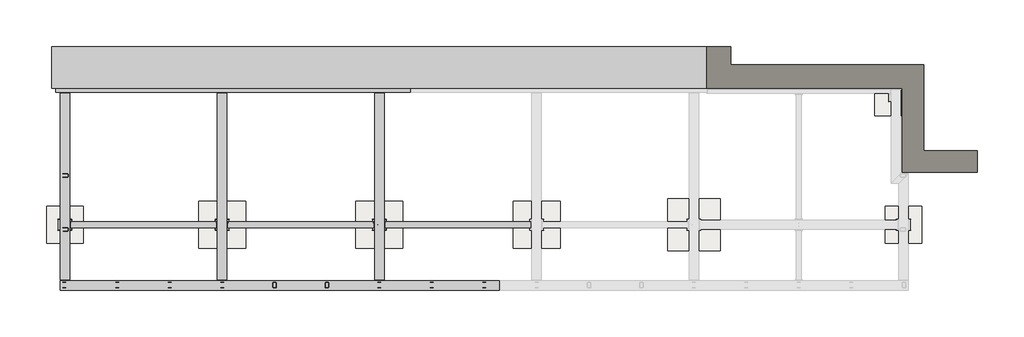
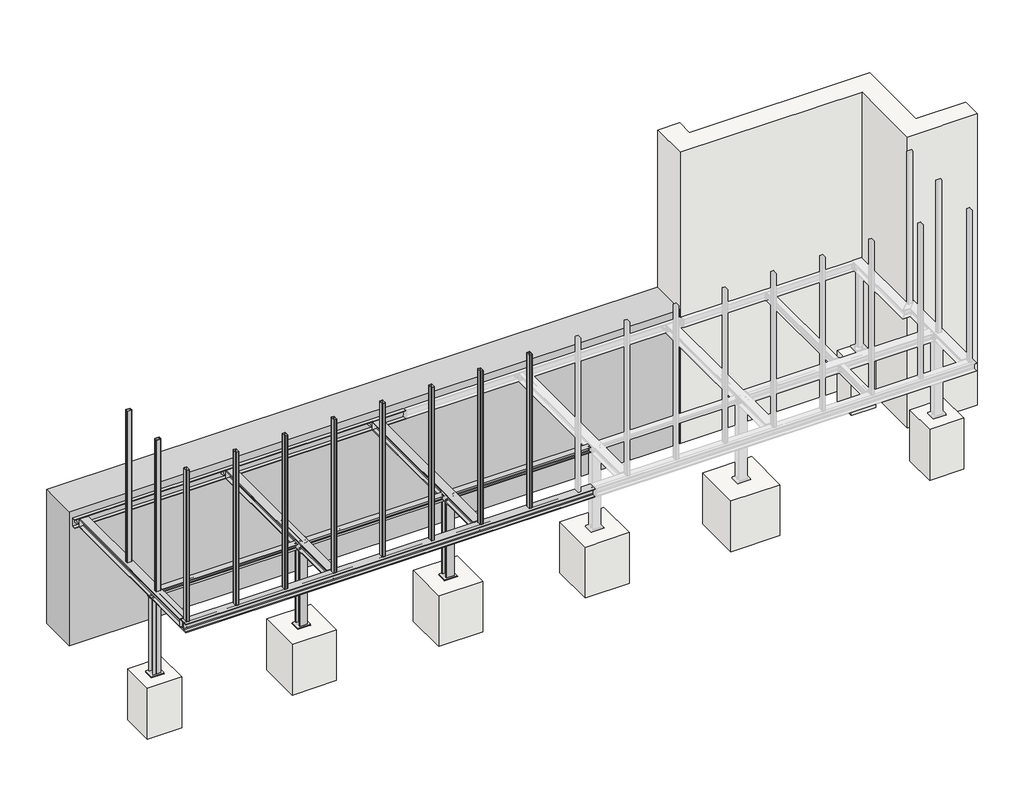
# One storey, part 1 of 31: 13 columns, 9 beams, 8 slabs, 3 plates.
"""IFC4 building model written with IfcOpenShell, lengths in millimetres."""

from ifc_helpers import new_model, si_unit, point, frame, frame_2d, origin, place, context, project, spatial, polyline, circle_curve, trimmed, segment, composite_curve, outline, extrude, faceted_brep, element, save

model = new_model("IFC4")

# Units and contexts
model_context = context("Model", 3, world=origin())
ifc_project = project(units=[si_unit("LENGTHUNIT", "METRE", prefix="MILLI")], contexts=[model_context])

# Site, building, storey
site = spatial("IfcSite", under=ifc_project)
building = spatial("IfcBuilding", under=site)
storey = spatial("IfcBuildingStorey", under=building, Name="Základy", Elevation=-1200.0)

# Beams
placement = place(None, origin())
element("IfcBeam", 1, ObjectType="800*2900", at=placement, inside=storey, context=model_context, shape_type="SweptSolid", body=[
    extrude(outline(polyline([(12300.0, 3860.0), (-200.0, 3860.0), (-200.0, 4660.0), (12300.0, 4660.0), (12300.0, 3860.0)])), frame((0.0, 0.0, -2900.0), z_axis=(0.0, 0.0, 1.0), x_axis=(1.0, 0.0, 0.0)), (0.0, 0.0, 1.0), 2900.0),
])
element("IfcBeam", 2, ObjectType="HEA120", at=placement, inside=storey, context=model_context, shape_type="SweptSolid", body=[
    extrude(outline(composite_curve([segment(polyline([(1200.0, -193.0), (1320.0, -193.0), (1320.0, -201.0), (1274.5, -201.0)]), True, "CONTINUOUS"), segment(trimmed(circle_curve(frame_2d((1274.5, -213.0)), 12.0), [point((1274.5, -201.0))], [point((1262.5, -213.0))], True, "CARTESIAN"), True, "CONTINUOUS"), segment(polyline([(1262.5, -213.0), (1262.5, -287.0)]), True, "CONTINUOUS"), segment(trimmed(circle_curve(frame_2d((1274.5, -287.0)), 12.0), [point((1262.5, -287.0))], [point((1274.5, -299.0))], True, "CARTESIAN"), True, "CONTINUOUS"), segment(polyline([(1274.5, -299.0), (1320.0, -299.0), (1320.0, -307.0), (1200.0, -307.0), (1200.0, -299.0), (1245.5, -299.0)]), True, "CONTINUOUS"), segment(trimmed(circle_curve(frame_2d((1245.5, -287.0)), 12.0), [point((1245.5, -299.0))], [point((1257.5, -287.0))], True, "CARTESIAN"), True, "CONTINUOUS"), segment(polyline([(1257.5, -287.0), (1257.5, -213.0)]), True, "CONTINUOUS"), segment(trimmed(circle_curve(frame_2d((1245.5, -213.0)), 12.0), [point((1257.5, -213.0))], [point((1245.5, -201.0))], True, "CARTESIAN"), True, "CONTINUOUS"), segment(polyline([(1245.5, -201.0), (1200.0, -201.0), (1200.0, -193.0)]), True, "CONTINUOUS")], self_intersect=False)), frame((160.0, 0.0, 0.0), z_axis=(1.0, 0.0, 0.0), x_axis=(0.0, 1.0, 0.0)), (0.0, 0.0, 1.0), 2780.0),
])
element("IfcBeam", 3, ObjectType="HEA120", at=placement, inside=storey, context=model_context, shape_type="SweptSolid", body=[
    extrude(outline(composite_curve([segment(polyline([(1200.0, -193.0), (1320.0, -193.0), (1320.0, -201.0), (1274.5, -201.0)]), True, "CONTINUOUS"), segment(trimmed(circle_curve(frame_2d((1274.5, -213.0)), 12.0), [point((1274.5, -201.0))], [point((1262.5, -213.0))], True, "CARTESIAN"), True, "CONTINUOUS"), segment(polyline([(1262.5, -213.0), (1262.5, -287.0)]), True, "CONTINUOUS"), segment(trimmed(circle_curve(frame_2d((1274.5, -287.0)), 12.0), [point((1262.5, -287.0))], [point((1274.5, -299.0))], True, "CARTESIAN"), True, "CONTINUOUS"), segment(polyline([(1274.5, -299.0), (1320.0, -299.0), (1320.0, -307.0), (1200.0, -307.0), (1200.0, -299.0), (1245.5, -299.0)]), True, "CONTINUOUS"), segment(trimmed(circle_curve(frame_2d((1245.5, -287.0)), 12.0), [point((1245.5, -299.0))], [point((1257.5, -287.0))], True, "CARTESIAN"), True, "CONTINUOUS"), segment(polyline([(1257.5, -287.0), (1257.5, -213.0)]), True, "CONTINUOUS"), segment(trimmed(circle_curve(frame_2d((1245.5, -213.0)), 12.0), [point((1257.5, -213.0))], [point((1245.5, -201.0))], True, "CARTESIAN"), True, "CONTINUOUS"), segment(polyline([(1245.5, -201.0), (1200.0, -201.0), (1200.0, -193.0)]), True, "CONTINUOUS")], self_intersect=False)), frame((3160.0, 0.0, 0.0), z_axis=(1.0, 0.0, 0.0), x_axis=(0.0, 1.0, 0.0)), (0.0, 0.0, 1.0), 2780.0),
])
element("IfcBeam", 4, ObjectType="HEA120", at=placement, inside=storey, context=model_context, shape_type="SweptSolid", body=[
    extrude(outline(composite_curve([segment(polyline([(1200.0, -193.0), (1320.0, -193.0), (1320.0, -201.0), (1274.5, -201.0)]), True, "CONTINUOUS"), segment(trimmed(circle_curve(frame_2d((1274.5, -213.0)), 12.0), [point((1274.5, -201.0))], [point((1262.5, -213.0))], True, "CARTESIAN"), True, "CONTINUOUS"), segment(polyline([(1262.5, -213.0), (1262.5, -287.0)]), True, "CONTINUOUS"), segment(trimmed(circle_curve(frame_2d((1274.5, -287.0)), 12.0), [point((1262.5, -287.0))], [point((1274.5, -299.0))], True, "CARTESIAN"), True, "CONTINUOUS"), segment(polyline([(1274.5, -299.0), (1320.0, -299.0), (1320.0, -307.0), (1200.0, -307.0), (1200.0, -299.0), (1245.5, -299.0)]), True, "CONTINUOUS"), segment(trimmed(circle_curve(frame_2d((1245.5, -287.0)), 12.0), [point((1245.5, -299.0))], [point((1257.5, -287.0))], True, "CARTESIAN"), True, "CONTINUOUS"), segment(polyline([(1257.5, -287.0), (1257.5, -213.0)]), True, "CONTINUOUS"), segment(trimmed(circle_curve(frame_2d((1245.5, -213.0)), 12.0), [point((1257.5, -213.0))], [point((1245.5, -201.0))], True, "CARTESIAN"), True, "CONTINUOUS"), segment(polyline([(1245.5, -201.0), (1200.0, -201.0), (1200.0, -193.0)]), True, "CONTINUOUS")], self_intersect=False)), frame((6160.0, 0.0, 0.0), z_axis=(1.0, 0.0, 0.0), x_axis=(0.0, 1.0, 0.0)), (0.0, 0.0, 1.0), 2780.0),
])
element("IfcBeam", 5, ObjectType="HEB180", at=placement, inside=storey, context=model_context, shape_type="SweptSolid", body=[
    extrude(outline(composite_curve([segment(polyline([(-340.0, 3140.0), (-326.0, 3140.0), (-326.0, 3069.25)]), True, "CONTINUOUS"), segment(trimmed(circle_curve(frame_2d((-311.0, 3069.25)), 15.0), [point((-326.0, 3069.25))], [point((-311.0, 3054.25))], True, "CARTESIAN"), True, "CONTINUOUS"), segment(polyline([(-311.0, 3054.25), (-189.0, 3054.25)]), True, "CONTINUOUS"), segment(trimmed(circle_curve(frame_2d((-189.0, 3069.25)), 15.0), [point((-189.0, 3054.25))], [point((-174.0, 3069.25))], True, "CARTESIAN"), True, "CONTINUOUS"), segment(polyline([(-174.0, 3069.25), (-174.0, 3140.0), (-160.0, 3140.0), (-160.0, 2960.0), (-174.0, 2960.0), (-174.0, 3030.75)]), True, "CONTINUOUS"), segment(trimmed(circle_curve(frame_2d((-189.0, 3030.75)), 15.0), [point((-174.0, 3030.75))], [point((-189.0, 3045.75))], True, "CARTESIAN"), True, "CONTINUOUS"), segment(polyline([(-189.0, 3045.75), (-311.0, 3045.75)]), True, "CONTINUOUS"), segment(trimmed(circle_curve(frame_2d((-311.0, 3030.75)), 15.0), [point((-311.0, 3045.75))], [point((-326.0, 3030.75))], True, "CARTESIAN"), True, "CONTINUOUS"), segment(polyline([(-326.0, 3030.75), (-326.0, 2960.0), (-340.0, 2960.0), (-340.0, 3140.0)]), True, "CONTINUOUS")], self_intersect=False)), frame((0.0, 210.0, 0.0), z_axis=(0.0, 1.0, 0.0), x_axis=(0.0, 0.0, 1.0)), (0.0, 0.0, 1.0), 3557.0),
])
element("IfcBeam", 6, ObjectType="HEB180", at=placement, inside=storey, context=model_context, shape_type="SweptSolid", body=[
    extrude(outline(composite_curve([segment(polyline([(-340.0, -40.0), (-340.0, 140.0), (-326.0, 140.0), (-326.0, 69.25)]), True, "CONTINUOUS"), segment(trimmed(circle_curve(frame_2d((-311.0, 69.25)), 15.0), [point((-326.0, 69.25))], [point((-311.0, 54.25))], True, "CARTESIAN"), True, "CONTINUOUS"), segment(polyline([(-311.0, 54.25), (-189.0, 54.25)]), True, "CONTINUOUS"), segment(trimmed(circle_curve(frame_2d((-189.0, 69.25)), 15.0), [point((-189.0, 54.25))], [point((-174.0, 69.25))], True, "CARTESIAN"), True, "CONTINUOUS"), segment(polyline([(-174.0, 69.25), (-174.0, 140.0), (-160.0, 140.0), (-160.0, -40.0), (-174.0, -40.0), (-174.0, 30.75)]), True, "CONTINUOUS"), segment(trimmed(circle_curve(frame_2d((-189.0, 30.75)), 15.0), [point((-174.0, 30.75))], [point((-189.0, 45.75))], True, "CARTESIAN"), True, "CONTINUOUS"), segment(polyline([(-189.0, 45.75), (-311.0, 45.75)]), True, "CONTINUOUS"), segment(trimmed(circle_curve(frame_2d((-311.0, 30.75)), 15.0), [point((-311.0, 45.75))], [point((-326.0, 30.75))], True, "CARTESIAN"), True, "CONTINUOUS"), segment(polyline([(-326.0, 30.75), (-326.0, -40.0), (-340.0, -40.0)]), True, "CONTINUOUS")], self_intersect=False)), frame((0.0, 210.0, 0.0), z_axis=(0.0, 1.0, 0.0), x_axis=(0.0, 0.0, 1.0)), (0.0, 0.0, 1.0), 3557.0),
])
element("IfcBeam", 7, ObjectType="HEB180", at=placement, inside=storey, context=model_context, shape_type="SweptSolid", body=[
    extrude(outline(composite_curve([segment(polyline([(-340.0, 6140.0), (-326.0, 6140.0), (-326.0, 6069.25)]), True, "CONTINUOUS"), segment(trimmed(circle_curve(frame_2d((-311.0, 6069.25)), 15.0), [point((-326.0, 6069.25))], [point((-311.0, 6054.25))], True, "CARTESIAN"), True, "CONTINUOUS"), segment(polyline([(-311.0, 6054.25), (-189.0, 6054.25)]), True, "CONTINUOUS"), segment(trimmed(circle_curve(frame_2d((-189.0, 6069.25)), 15.0), [point((-189.0, 6054.25))], [point((-174.0, 6069.25))], True, "CARTESIAN"), True, "CONTINUOUS"), segment(polyline([(-174.0, 6069.25), (-174.0, 6140.0), (-160.0, 6140.0), (-160.0, 5960.0), (-174.0, 5960.0), (-174.0, 6030.75)]), True, "CONTINUOUS"), segment(trimmed(circle_curve(frame_2d((-189.0, 6030.75)), 15.0), [point((-174.0, 6030.75))], [point((-189.0, 6045.75))], True, "CARTESIAN"), True, "CONTINUOUS"), segment(polyline([(-189.0, 6045.75), (-311.0, 6045.75)]), True, "CONTINUOUS"), segment(trimmed(circle_curve(frame_2d((-311.0, 6030.75)), 15.0), [point((-311.0, 6045.75))], [point((-326.0, 6030.75))], True, "CARTESIAN"), True, "CONTINUOUS"), segment(polyline([(-326.0, 6030.75), (-326.0, 5960.0), (-340.0, 5960.0), (-340.0, 6140.0)]), True, "CONTINUOUS")], self_intersect=False)), frame((0.0, 210.0, 0.0), z_axis=(0.0, 1.0, 0.0), x_axis=(0.0, 0.0, 1.0)), (0.0, 0.0, 1.0), 3557.0),
])
element("IfcBeam", 8, ObjectType="HEB180", at=placement, inside=storey, context=model_context, shape_type="SweptSolid", body=[
    extrude(outline(composite_curve([segment(polyline([(10.0, -160.0), (190.0, -160.0), (190.0, -174.0), (119.25, -174.0)]), True, "CONTINUOUS"), segment(trimmed(circle_curve(frame_2d((119.25, -189.0)), 15.0), [point((119.25, -174.0))], [point((104.25, -189.0))], True, "CARTESIAN"), True, "CONTINUOUS"), segment(polyline([(104.25, -189.0), (104.25, -311.0)]), True, "CONTINUOUS"), segment(trimmed(circle_curve(frame_2d((119.25, -311.0)), 15.0), [point((104.25, -311.0))], [point((119.25, -326.0))], True, "CARTESIAN"), True, "CONTINUOUS"), segment(polyline([(119.25, -326.0), (190.0, -326.0), (190.0, -340.0), (10.0, -340.0), (10.0, -326.0), (80.75, -326.0)]), True, "CONTINUOUS"), segment(trimmed(circle_curve(frame_2d((80.75, -311.0)), 15.0), [point((80.75, -326.0))], [point((95.75, -311.0))], True, "CARTESIAN"), True, "CONTINUOUS"), segment(polyline([(95.75, -311.0), (95.75, -189.0)]), True, "CONTINUOUS"), segment(trimmed(circle_curve(frame_2d((80.75, -189.0)), 15.0), [point((95.75, -189.0))], [point((80.75, -174.0))], True, "CARTESIAN"), True, "CONTINUOUS"), segment(polyline([(80.75, -174.0), (10.0, -174.0), (10.0, -160.0)]), True, "CONTINUOUS")], self_intersect=False)), frame((-40.0, 0.0, 0.0), z_axis=(1.0, 0.0, 0.0), x_axis=(0.0, 1.0, 0.0)), (0.0, 0.0, 1.0), 8380.0),
])
element("IfcBeam", 9, ObjectType="UPE180", at=placement, inside=storey, context=model_context, shape_type="SweptSolid", body=[
    extrude(outline(polyline([(3860.0, -160.0), (3860.0, -340.0), (3785.0, -340.0), (3785.0, -329.5), (3854.5, -329.5), (3854.5, -170.5), (3785.0, -170.5), (3785.0, -160.0), (3860.0, -160.0)])), frame((-125.0, 0.0, 0.0), z_axis=(1.0, 0.0, 0.0), x_axis=(0.0, 1.0, 0.0)), (0.0, 0.0, 1.0), 6765.0),
])

# Columns
element("IfcColumn", 10, ObjectType="RHS100*60*3.2", at=placement, inside=storey, context=model_context, shape_type="SweptSolid", body=[
    extrude(outline(composite_curve([segment(polyline([(3073.6, 60.0), (3026.4, 60.0)]), True, "CONTINUOUS"), segment(trimmed(circle_curve(frame_2d((3026.4, 66.4)), 6.4), [point((3026.4, 60.0))], [point((3020.0, 66.4))], False, "CARTESIAN"), True, "CONTINUOUS"), segment(polyline([(3020.0, 66.4), (3020.0, 153.6)]), True, "CONTINUOUS"), segment(trimmed(circle_curve(frame_2d((3026.4, 153.6)), 6.4), [point((3020.0, 153.6))], [point((3026.4, 160.0))], False, "CARTESIAN"), True, "CONTINUOUS"), segment(polyline([(3026.4, 160.0), (3073.6, 160.0)]), True, "CONTINUOUS"), segment(trimmed(circle_curve(frame_2d((3073.6, 153.6)), 6.4), [point((3073.6, 160.0))], [point((3080.0, 153.6))], False, "CARTESIAN"), True, "CONTINUOUS"), segment(polyline([(3080.0, 153.6), (3080.0, 66.4)]), True, "CONTINUOUS"), segment(trimmed(circle_curve(frame_2d((3073.6, 66.4)), 6.4), [point((3080.0, 66.4))], [point((3073.6, 60.0))], False, "CARTESIAN"), True, "CONTINUOUS")], self_intersect=False), holes=[composite_curve([segment(trimmed(circle_curve(frame_2d((3073.6, 66.4)), 3.2), [point((3073.6, 63.2))], [point((3076.8, 66.4))], True, "CARTESIAN"), True, "CONTINUOUS"), segment(polyline([(3076.8, 66.4), (3076.8, 153.6)]), True, "CONTINUOUS"), segment(trimmed(circle_curve(frame_2d((3073.6, 153.6)), 3.2), [point((3076.8, 153.6))], [point((3073.6, 156.8))], True, "CARTESIAN"), True, "CONTINUOUS"), segment(polyline([(3073.6, 156.8), (3026.4, 156.8)]), True, "CONTINUOUS"), segment(trimmed(circle_curve(frame_2d((3026.4, 153.6)), 3.2), [point((3026.4, 156.8))], [point((3023.2, 153.6))], True, "CARTESIAN"), True, "CONTINUOUS"), segment(polyline([(3023.2, 153.6), (3023.2, 66.4)]), True, "CONTINUOUS"), segment(trimmed(circle_curve(frame_2d((3026.4, 66.4)), 3.2), [point((3023.2, 66.4))], [point((3026.4, 63.2))], True, "CARTESIAN"), True, "CONTINUOUS"), segment(polyline([(3026.4, 63.2), (3073.6, 63.2)]), True, "CONTINUOUS")], self_intersect=False)]), frame((0.0, 0.0, -160.0), z_axis=(0.0, 0.0, 1.0), x_axis=(1.0, 0.0, 0.0)), (0.0, 0.0, 1.0), 3320.0),
])
element("IfcColumn", 11, ObjectType="RHS100*60*3.2", at=placement, inside=storey, context=model_context, shape_type="SweptSolid", body=[
    extrude(outline(composite_curve([segment(polyline([(6073.6, 60.0), (6026.4, 60.0)]), True, "CONTINUOUS"), segment(trimmed(circle_curve(frame_2d((6026.4, 66.4)), 6.4), [point((6026.4, 60.0))], [point((6020.0, 66.4))], False, "CARTESIAN"), True, "CONTINUOUS"), segment(polyline([(6020.0, 66.4), (6020.0, 153.6)]), True, "CONTINUOUS"), segment(trimmed(circle_curve(frame_2d((6026.4, 153.6)), 6.4), [point((6020.0, 153.6))], [point((6026.4, 160.0))], False, "CARTESIAN"), True, "CONTINUOUS"), segment(polyline([(6026.4, 160.0), (6073.6, 160.0)]), True, "CONTINUOUS"), segment(trimmed(circle_curve(frame_2d((6073.6, 153.6)), 6.4), [point((6073.6, 160.0))], [point((6080.0, 153.6))], False, "CARTESIAN"), True, "CONTINUOUS"), segment(polyline([(6080.0, 153.6), (6080.0, 66.4)]), True, "CONTINUOUS"), segment(trimmed(circle_curve(frame_2d((6073.6, 66.4)), 6.4), [point((6080.0, 66.4))], [point((6073.6, 60.0))], False, "CARTESIAN"), True, "CONTINUOUS")], self_intersect=False), holes=[composite_curve([segment(trimmed(circle_curve(frame_2d((6073.6, 66.4)), 3.2), [point((6073.6, 63.2))], [point((6076.8, 66.4))], True, "CARTESIAN"), True, "CONTINUOUS"), segment(polyline([(6076.8, 66.4), (6076.8, 153.6)]), True, "CONTINUOUS"), segment(trimmed(circle_curve(frame_2d((6073.6, 153.6)), 3.2), [point((6076.8, 153.6))], [point((6073.6, 156.8))], True, "CARTESIAN"), True, "CONTINUOUS"), segment(polyline([(6073.6, 156.8), (6026.4, 156.8)]), True, "CONTINUOUS"), segment(trimmed(circle_curve(frame_2d((6026.4, 153.6)), 3.2), [point((6026.4, 156.8))], [point((6023.2, 153.6))], True, "CARTESIAN"), True, "CONTINUOUS"), segment(polyline([(6023.2, 153.6), (6023.2, 66.4)]), True, "CONTINUOUS"), segment(trimmed(circle_curve(frame_2d((6026.4, 66.4)), 3.2), [point((6023.2, 66.4))], [point((6026.4, 63.2))], True, "CARTESIAN"), True, "CONTINUOUS"), segment(polyline([(6026.4, 63.2), (6073.6, 63.2)]), True, "CONTINUOUS")], self_intersect=False)]), frame((0.0, 0.0, -160.0), z_axis=(0.0, 0.0, 1.0), x_axis=(1.0, 0.0, 0.0)), (0.0, 0.0, 1.0), 3320.0),
])
element("IfcColumn", 12, ObjectType="RHS100*60*3.2", at=placement, inside=storey, context=model_context, shape_type="SweptSolid", body=[
    extrude(outline(composite_curve([segment(polyline([(10.0, 1146.4), (10.0, 1193.6)]), True, "CONTINUOUS"), segment(trimmed(circle_curve(frame_2d((16.4, 1193.6)), 6.4), [point((10.0, 1193.6))], [point((16.4, 1200.0))], False, "CARTESIAN"), True, "CONTINUOUS"), segment(polyline([(16.4, 1200.0), (103.6, 1200.0)]), True, "CONTINUOUS"), segment(trimmed(circle_curve(frame_2d((103.6, 1193.6)), 6.4), [point((103.6, 1200.0))], [point((110.0, 1193.6))], False, "CARTESIAN"), True, "CONTINUOUS"), segment(polyline([(110.0, 1193.6), (110.0, 1146.4)]), True, "CONTINUOUS"), segment(trimmed(circle_curve(frame_2d((103.6, 1146.4)), 6.4), [point((110.0, 1146.4))], [point((103.6, 1140.0))], False, "CARTESIAN"), True, "CONTINUOUS"), segment(polyline([(103.6, 1140.0), (16.4, 1140.0)]), True, "CONTINUOUS"), segment(trimmed(circle_curve(frame_2d((16.4, 1146.4)), 6.4), [point((16.4, 1140.0))], [point((10.0, 1146.4))], False, "CARTESIAN"), True, "CONTINUOUS")], self_intersect=False), holes=[composite_curve([segment(trimmed(circle_curve(frame_2d((16.4, 1146.4)), 3.2), [point((13.2, 1146.4))], [point((16.4, 1143.2))], True, "CARTESIAN"), True, "CONTINUOUS"), segment(polyline([(16.4, 1143.2), (103.6, 1143.2)]), True, "CONTINUOUS"), segment(trimmed(circle_curve(frame_2d((103.6, 1146.4)), 3.2), [point((103.6, 1143.2))], [point((106.8, 1146.4))], True, "CARTESIAN"), True, "CONTINUOUS"), segment(polyline([(106.8, 1146.4), (106.8, 1193.6)]), True, "CONTINUOUS"), segment(trimmed(circle_curve(frame_2d((103.6, 1193.6)), 3.2), [point((106.8, 1193.6))], [point((103.6, 1196.8))], True, "CARTESIAN"), True, "CONTINUOUS"), segment(polyline([(103.6, 1196.8), (16.4, 1196.8)]), True, "CONTINUOUS"), segment(trimmed(circle_curve(frame_2d((16.4, 1193.6)), 3.2), [point((16.4, 1196.8))], [point((13.2, 1193.6))], True, "CARTESIAN"), True, "CONTINUOUS"), segment(polyline([(13.2, 1193.6), (13.2, 1146.4)]), True, "CONTINUOUS")], self_intersect=False)]), frame((0.0, 0.0, -160.0), z_axis=(0.0, 0.0, 1.0), x_axis=(1.0, 0.0, 0.0)), (0.0, 0.0, 1.0), 3280.0),
])
element("IfcColumn", 13, ObjectType="RHS100*60*3.2", at=placement, inside=storey, context=model_context, shape_type="SweptSolid", body=[
    extrude(outline(composite_curve([segment(polyline([(2073.6, 60.0), (2026.4, 60.0)]), True, "CONTINUOUS"), segment(trimmed(circle_curve(frame_2d((2026.4, 66.4)), 6.4), [point((2026.4, 60.0))], [point((2020.0, 66.4))], False, "CARTESIAN"), True, "CONTINUOUS"), segment(polyline([(2020.0, 66.4), (2020.0, 153.6)]), True, "CONTINUOUS"), segment(trimmed(circle_curve(frame_2d((2026.4, 153.6)), 6.4), [point((2020.0, 153.6))], [point((2026.4, 160.0))], False, "CARTESIAN"), True, "CONTINUOUS"), segment(polyline([(2026.4, 160.0), (2073.6, 160.0)]), True, "CONTINUOUS"), segment(trimmed(circle_curve(frame_2d((2073.6, 153.6)), 6.4), [point((2073.6, 160.0))], [point((2080.0, 153.6))], False, "CARTESIAN"), True, "CONTINUOUS"), segment(polyline([(2080.0, 153.6), (2080.0, 66.4)]), True, "CONTINUOUS"), segment(trimmed(circle_curve(frame_2d((2073.6, 66.4)), 6.4), [point((2080.0, 66.4))], [point((2073.6, 60.0))], False, "CARTESIAN"), True, "CONTINUOUS")], self_intersect=False), holes=[composite_curve([segment(trimmed(circle_curve(frame_2d((2073.6, 66.4)), 3.2), [point((2073.6, 63.2))], [point((2076.8, 66.4))], True, "CARTESIAN"), True, "CONTINUOUS"), segment(polyline([(2076.8, 66.4), (2076.8, 153.6)]), True, "CONTINUOUS"), segment(trimmed(circle_curve(frame_2d((2073.6, 153.6)), 3.2), [point((2076.8, 153.6))], [point((2073.6, 156.8))], True, "CARTESIAN"), True, "CONTINUOUS"), segment(polyline([(2073.6, 156.8), (2026.4, 156.8)]), True, "CONTINUOUS"), segment(trimmed(circle_curve(frame_2d((2026.4, 153.6)), 3.2), [point((2026.4, 156.8))], [point((2023.2, 153.6))], True, "CARTESIAN"), True, "CONTINUOUS"), segment(polyline([(2023.2, 153.6), (2023.2, 66.4)]), True, "CONTINUOUS"), segment(trimmed(circle_curve(frame_2d((2026.4, 66.4)), 3.2), [point((2023.2, 66.4))], [point((2026.4, 63.2))], True, "CARTESIAN"), True, "CONTINUOUS"), segment(polyline([(2026.4, 63.2), (2073.6, 63.2)]), True, "CONTINUOUS")], self_intersect=False)]), frame((0.0, 0.0, -160.0), z_axis=(0.0, 0.0, 1.0), x_axis=(1.0, 0.0, 0.0)), (0.0, 0.0, 1.0), 3320.0),
])
element("IfcColumn", 14, ObjectType="RHS100*60*3.2", at=placement, inside=storey, context=model_context, shape_type="SweptSolid", body=[
    extrude(outline(composite_curve([segment(polyline([(1073.6, 60.0), (1026.4, 60.0)]), True, "CONTINUOUS"), segment(trimmed(circle_curve(frame_2d((1026.4, 66.4)), 6.4), [point((1026.4, 60.0))], [point((1020.0, 66.4))], False, "CARTESIAN"), True, "CONTINUOUS"), segment(polyline([(1020.0, 66.4), (1020.0, 153.6)]), True, "CONTINUOUS"), segment(trimmed(circle_curve(frame_2d((1026.4, 153.6)), 6.4), [point((1020.0, 153.6))], [point((1026.4, 160.0))], False, "CARTESIAN"), True, "CONTINUOUS"), segment(polyline([(1026.4, 160.0), (1073.6, 160.0)]), True, "CONTINUOUS"), segment(trimmed(circle_curve(frame_2d((1073.6, 153.6)), 6.4), [point((1073.6, 160.0))], [point((1080.0, 153.6))], False, "CARTESIAN"), True, "CONTINUOUS"), segment(polyline([(1080.0, 153.6), (1080.0, 66.4)]), True, "CONTINUOUS"), segment(trimmed(circle_curve(frame_2d((1073.6, 66.4)), 6.4), [point((1080.0, 66.4))], [point((1073.6, 60.0))], False, "CARTESIAN"), True, "CONTINUOUS")], self_intersect=False), holes=[composite_curve([segment(trimmed(circle_curve(frame_2d((1073.6, 66.4)), 3.2), [point((1073.6, 63.2))], [point((1076.8, 66.4))], True, "CARTESIAN"), True, "CONTINUOUS"), segment(polyline([(1076.8, 66.4), (1076.8, 153.6)]), True, "CONTINUOUS"), segment(trimmed(circle_curve(frame_2d((1073.6, 153.6)), 3.2), [point((1076.8, 153.6))], [point((1073.6, 156.8))], True, "CARTESIAN"), True, "CONTINUOUS"), segment(polyline([(1073.6, 156.8), (1026.4, 156.8)]), True, "CONTINUOUS"), segment(trimmed(circle_curve(frame_2d((1026.4, 153.6)), 3.2), [point((1026.4, 156.8))], [point((1023.2, 153.6))], True, "CARTESIAN"), True, "CONTINUOUS"), segment(polyline([(1023.2, 153.6), (1023.2, 66.4)]), True, "CONTINUOUS"), segment(trimmed(circle_curve(frame_2d((1026.4, 66.4)), 3.2), [point((1023.2, 66.4))], [point((1026.4, 63.2))], True, "CARTESIAN"), True, "CONTINUOUS"), segment(polyline([(1026.4, 63.2), (1073.6, 63.2)]), True, "CONTINUOUS")], self_intersect=False)]), frame((0.0, 0.0, -160.0), z_axis=(0.0, 0.0, 1.0), x_axis=(1.0, 0.0, 0.0)), (0.0, 0.0, 1.0), 3320.0),
])
element("IfcColumn", 15, ObjectType="RHS100*60*3.2", at=placement, inside=storey, context=model_context, shape_type="SweptSolid", body=[
    extrude(outline(composite_curve([segment(polyline([(5073.6, 60.0), (5026.4, 60.0)]), True, "CONTINUOUS"), segment(trimmed(circle_curve(frame_2d((5026.4, 66.4)), 6.4), [point((5026.4, 60.0))], [point((5020.0, 66.4))], False, "CARTESIAN"), True, "CONTINUOUS"), segment(polyline([(5020.0, 66.4), (5020.0, 153.6)]), True, "CONTINUOUS"), segment(trimmed(circle_curve(frame_2d((5026.4, 153.6)), 6.4), [point((5020.0, 153.6))], [point((5026.4, 160.0))], False, "CARTESIAN"), True, "CONTINUOUS"), segment(polyline([(5026.4, 160.0), (5073.6, 160.0)]), True, "CONTINUOUS"), segment(trimmed(circle_curve(frame_2d((5073.6, 153.6)), 6.4), [point((5073.6, 160.0))], [point((5080.0, 153.6))], False, "CARTESIAN"), True, "CONTINUOUS"), segment(polyline([(5080.0, 153.6), (5080.0, 66.4)]), True, "CONTINUOUS"), segment(trimmed(circle_curve(frame_2d((5073.6, 66.4)), 6.4), [point((5080.0, 66.4))], [point((5073.6, 60.0))], False, "CARTESIAN"), True, "CONTINUOUS")], self_intersect=False), holes=[composite_curve([segment(trimmed(circle_curve(frame_2d((5073.6, 66.4)), 3.2), [point((5073.6, 63.2))], [point((5076.8, 66.4))], True, "CARTESIAN"), True, "CONTINUOUS"), segment(polyline([(5076.8, 66.4), (5076.8, 153.6)]), True, "CONTINUOUS"), segment(trimmed(circle_curve(frame_2d((5073.6, 153.6)), 3.2), [point((5076.8, 153.6))], [point((5073.6, 156.8))], True, "CARTESIAN"), True, "CONTINUOUS"), segment(polyline([(5073.6, 156.8), (5026.4, 156.8)]), True, "CONTINUOUS"), segment(trimmed(circle_curve(frame_2d((5026.4, 153.6)), 3.2), [point((5026.4, 156.8))], [point((5023.2, 153.6))], True, "CARTESIAN"), True, "CONTINUOUS"), segment(polyline([(5023.2, 153.6), (5023.2, 66.4)]), True, "CONTINUOUS"), segment(trimmed(circle_curve(frame_2d((5026.4, 66.4)), 3.2), [point((5023.2, 66.4))], [point((5026.4, 63.2))], True, "CARTESIAN"), True, "CONTINUOUS"), segment(polyline([(5026.4, 63.2), (5073.6, 63.2)]), True, "CONTINUOUS")], self_intersect=False)]), frame((0.0, 0.0, -160.0), z_axis=(0.0, 0.0, 1.0), x_axis=(1.0, 0.0, 0.0)), (0.0, 0.0, 1.0), 3320.0),
])
element("IfcColumn", 16, ObjectType="RHS100*60*3.2", at=placement, inside=storey, context=model_context, shape_type="SweptSolid", body=[
    extrude(outline(composite_curve([segment(polyline([(4073.6, 60.0), (4026.4, 60.0)]), True, "CONTINUOUS"), segment(trimmed(circle_curve(frame_2d((4026.4, 66.4)), 6.4), [point((4026.4, 60.0))], [point((4020.0, 66.4))], False, "CARTESIAN"), True, "CONTINUOUS"), segment(polyline([(4020.0, 66.4), (4020.0, 153.6)]), True, "CONTINUOUS"), segment(trimmed(circle_curve(frame_2d((4026.4, 153.6)), 6.4), [point((4020.0, 153.6))], [point((4026.4, 160.0))], False, "CARTESIAN"), True, "CONTINUOUS"), segment(polyline([(4026.4, 160.0), (4073.6, 160.0)]), True, "CONTINUOUS"), segment(trimmed(circle_curve(frame_2d((4073.6, 153.6)), 6.4), [point((4073.6, 160.0))], [point((4080.0, 153.6))], False, "CARTESIAN"), True, "CONTINUOUS"), segment(polyline([(4080.0, 153.6), (4080.0, 66.4)]), True, "CONTINUOUS"), segment(trimmed(circle_curve(frame_2d((4073.6, 66.4)), 6.4), [point((4080.0, 66.4))], [point((4073.6, 60.0))], False, "CARTESIAN"), True, "CONTINUOUS")], self_intersect=False), holes=[composite_curve([segment(trimmed(circle_curve(frame_2d((4073.6, 66.4)), 3.2), [point((4073.6, 63.2))], [point((4076.8, 66.4))], True, "CARTESIAN"), True, "CONTINUOUS"), segment(polyline([(4076.8, 66.4), (4076.8, 153.6)]), True, "CONTINUOUS"), segment(trimmed(circle_curve(frame_2d((4073.6, 153.6)), 3.2), [point((4076.8, 153.6))], [point((4073.6, 156.8))], True, "CARTESIAN"), True, "CONTINUOUS"), segment(polyline([(4073.6, 156.8), (4026.4, 156.8)]), True, "CONTINUOUS"), segment(trimmed(circle_curve(frame_2d((4026.4, 153.6)), 3.2), [point((4026.4, 156.8))], [point((4023.2, 153.6))], True, "CARTESIAN"), True, "CONTINUOUS"), segment(polyline([(4023.2, 153.6), (4023.2, 66.4)]), True, "CONTINUOUS"), segment(trimmed(circle_curve(frame_2d((4026.4, 66.4)), 3.2), [point((4023.2, 66.4))], [point((4026.4, 63.2))], True, "CARTESIAN"), True, "CONTINUOUS"), segment(polyline([(4026.4, 63.2), (4073.6, 63.2)]), True, "CONTINUOUS")], self_intersect=False)]), frame((0.0, 0.0, -160.0), z_axis=(0.0, 0.0, 1.0), x_axis=(1.0, 0.0, 0.0)), (0.0, 0.0, 1.0), 3320.0),
])
element("IfcColumn", 17, ObjectType="RHS100*60*3.2", at=placement, inside=storey, context=model_context, shape_type="SweptSolid", body=[
    extrude(outline(composite_curve([segment(polyline([(7073.6, 60.0), (7026.4, 60.0)]), True, "CONTINUOUS"), segment(trimmed(circle_curve(frame_2d((7026.4, 66.4)), 6.4), [point((7026.4, 60.0))], [point((7020.0, 66.4))], False, "CARTESIAN"), True, "CONTINUOUS"), segment(polyline([(7020.0, 66.4), (7020.0, 153.6)]), True, "CONTINUOUS"), segment(trimmed(circle_curve(frame_2d((7026.4, 153.6)), 6.4), [point((7020.0, 153.6))], [point((7026.4, 160.0))], False, "CARTESIAN"), True, "CONTINUOUS"), segment(polyline([(7026.4, 160.0), (7073.6, 160.0)]), True, "CONTINUOUS"), segment(trimmed(circle_curve(frame_2d((7073.6, 153.6)), 6.4), [point((7073.6, 160.0))], [point((7080.0, 153.6))], False, "CARTESIAN"), True, "CONTINUOUS"), segment(polyline([(7080.0, 153.6), (7080.0, 66.4)]), True, "CONTINUOUS"), segment(trimmed(circle_curve(frame_2d((7073.6, 66.4)), 6.4), [point((7080.0, 66.4))], [point((7073.6, 60.0))], False, "CARTESIAN"), True, "CONTINUOUS")], self_intersect=False), holes=[composite_curve([segment(trimmed(circle_curve(frame_2d((7073.6, 66.4)), 3.2), [point((7073.6, 63.2))], [point((7076.8, 66.4))], True, "CARTESIAN"), True, "CONTINUOUS"), segment(polyline([(7076.8, 66.4), (7076.8, 153.6)]), True, "CONTINUOUS"), segment(trimmed(circle_curve(frame_2d((7073.6, 153.6)), 3.2), [point((7076.8, 153.6))], [point((7073.6, 156.8))], True, "CARTESIAN"), True, "CONTINUOUS"), segment(polyline([(7073.6, 156.8), (7026.4, 156.8)]), True, "CONTINUOUS"), segment(trimmed(circle_curve(frame_2d((7026.4, 153.6)), 3.2), [point((7026.4, 156.8))], [point((7023.2, 153.6))], True, "CARTESIAN"), True, "CONTINUOUS"), segment(polyline([(7023.2, 153.6), (7023.2, 66.4)]), True, "CONTINUOUS"), segment(trimmed(circle_curve(frame_2d((7026.4, 66.4)), 3.2), [point((7023.2, 66.4))], [point((7026.4, 63.2))], True, "CARTESIAN"), True, "CONTINUOUS"), segment(polyline([(7026.4, 63.2), (7073.6, 63.2)]), True, "CONTINUOUS")], self_intersect=False)]), frame((0.0, 0.0, -160.0), z_axis=(0.0, 0.0, 1.0), x_axis=(1.0, 0.0, 0.0)), (0.0, 0.0, 1.0), 3320.0),
])
element("IfcColumn", 18, ObjectType="RHS100*60*3.2", at=placement, inside=storey, context=model_context, shape_type="SweptSolid", body=[
    extrude(outline(composite_curve([segment(polyline([(63.6, 60.0), (16.4, 60.0)]), True, "CONTINUOUS"), segment(trimmed(circle_curve(frame_2d((16.4, 66.4)), 6.4), [point((16.4, 60.0))], [point((10.0, 66.4))], False, "CARTESIAN"), True, "CONTINUOUS"), segment(polyline([(10.0, 66.4), (10.0, 153.6)]), True, "CONTINUOUS"), segment(trimmed(circle_curve(frame_2d((16.4, 153.6)), 6.4), [point((10.0, 153.6))], [point((16.4, 160.0))], False, "CARTESIAN"), True, "CONTINUOUS"), segment(polyline([(16.4, 160.0), (63.6, 160.0)]), True, "CONTINUOUS"), segment(trimmed(circle_curve(frame_2d((63.6, 153.6)), 6.4), [point((63.6, 160.0))], [point((70.0, 153.6))], False, "CARTESIAN"), True, "CONTINUOUS"), segment(polyline([(70.0, 153.6), (70.0, 66.4)]), True, "CONTINUOUS"), segment(trimmed(circle_curve(frame_2d((63.6, 66.4)), 6.4), [point((70.0, 66.4))], [point((63.6, 60.0))], False, "CARTESIAN"), True, "CONTINUOUS")], self_intersect=False), holes=[composite_curve([segment(trimmed(circle_curve(frame_2d((63.6, 66.4)), 3.2), [point((63.6, 63.2))], [point((66.8, 66.4))], True, "CARTESIAN"), True, "CONTINUOUS"), segment(polyline([(66.8, 66.4), (66.8, 153.6)]), True, "CONTINUOUS"), segment(trimmed(circle_curve(frame_2d((63.6, 153.6)), 3.2), [point((66.8, 153.6))], [point((63.6, 156.8))], True, "CARTESIAN"), True, "CONTINUOUS"), segment(polyline([(63.6, 156.8), (16.4, 156.8)]), True, "CONTINUOUS"), segment(trimmed(circle_curve(frame_2d((16.4, 153.6)), 3.2), [point((16.4, 156.8))], [point((13.2, 153.6))], True, "CARTESIAN"), True, "CONTINUOUS"), segment(polyline([(13.2, 153.6), (13.2, 66.4)]), True, "CONTINUOUS"), segment(trimmed(circle_curve(frame_2d((16.4, 66.4)), 3.2), [point((13.2, 66.4))], [point((16.4, 63.2))], True, "CARTESIAN"), True, "CONTINUOUS"), segment(polyline([(16.4, 63.2), (63.6, 63.2)]), True, "CONTINUOUS")], self_intersect=False)]), frame((0.0, 0.0, -160.0), z_axis=(0.0, 0.0, 1.0), x_axis=(1.0, 0.0, 0.0)), (0.0, 0.0, 1.0), 3280.0),
])
element("IfcColumn", 19, ObjectType="RHS100*60*3.2", at=placement, inside=storey, context=model_context, shape_type="SweptSolid", body=[
    extrude(outline(composite_curve([segment(polyline([(110.0, 2223.6), (110.0, 2176.4)]), True, "CONTINUOUS"), segment(trimmed(circle_curve(frame_2d((103.6, 2176.4)), 6.4), [point((110.0, 2176.4))], [point((103.6, 2170.0))], False, "CARTESIAN"), True, "CONTINUOUS"), segment(polyline([(103.6, 2170.0), (16.4, 2170.0)]), True, "CONTINUOUS"), segment(trimmed(circle_curve(frame_2d((16.4, 2176.4)), 6.4), [point((16.4, 2170.0))], [point((10.0, 2176.4))], False, "CARTESIAN"), True, "CONTINUOUS"), segment(polyline([(10.0, 2176.4), (10.0, 2223.6)]), True, "CONTINUOUS"), segment(trimmed(circle_curve(frame_2d((16.4, 2223.6)), 6.4), [point((10.0, 2223.6))], [point((16.4, 2230.0))], False, "CARTESIAN"), True, "CONTINUOUS"), segment(polyline([(16.4, 2230.0), (103.6, 2230.0)]), True, "CONTINUOUS"), segment(trimmed(circle_curve(frame_2d((103.6, 2223.6)), 6.4), [point((103.6, 2230.0))], [point((110.0, 2223.6))], False, "CARTESIAN"), True, "CONTINUOUS")], self_intersect=False), holes=[composite_curve([segment(trimmed(circle_curve(frame_2d((103.6, 2223.6)), 3.2), [point((106.8, 2223.6))], [point((103.6, 2226.8))], True, "CARTESIAN"), True, "CONTINUOUS"), segment(polyline([(103.6, 2226.8), (16.4, 2226.8)]), True, "CONTINUOUS"), segment(trimmed(circle_curve(frame_2d((16.4, 2223.6)), 3.2), [point((16.4, 2226.8))], [point((13.2, 2223.6))], True, "CARTESIAN"), True, "CONTINUOUS"), segment(polyline([(13.2, 2223.6), (13.2, 2176.4)]), True, "CONTINUOUS"), segment(trimmed(circle_curve(frame_2d((16.4, 2176.4)), 3.2), [point((13.2, 2176.4))], [point((16.4, 2173.2))], True, "CARTESIAN"), True, "CONTINUOUS"), segment(polyline([(16.4, 2173.2), (103.6, 2173.2)]), True, "CONTINUOUS"), segment(trimmed(circle_curve(frame_2d((103.6, 2176.4)), 3.2), [point((103.6, 2173.2))], [point((106.8, 2176.4))], True, "CARTESIAN"), True, "CONTINUOUS"), segment(polyline([(106.8, 2176.4), (106.8, 2223.6)]), True, "CONTINUOUS")], self_intersect=False)]), frame((0.0, 0.0, -160.0), z_axis=(0.0, 0.0, 1.0), x_axis=(1.0, 0.0, 0.0)), (0.0, 0.0, 1.0), 3280.0),
])
element("IfcColumn", 20, ObjectType="HEA160", at=placement, inside=storey, context=model_context, shape_type="SweptSolid", body=[
    extrude(outline(composite_curve([segment(polyline([(3130.0, 1184.0), (2970.0, 1184.0), (2970.0, 1193.0), (3032.0, 1193.0)]), True, "CONTINUOUS"), segment(trimmed(circle_curve(frame_2d((3032.0, 1208.0)), 15.0), [point((3032.0, 1193.0))], [point((3047.0, 1208.0))], True, "CARTESIAN"), True, "CONTINUOUS"), segment(polyline([(3047.0, 1208.0), (3047.0, 1312.0)]), True, "CONTINUOUS"), segment(trimmed(circle_curve(frame_2d((3032.0, 1312.0)), 15.0), [point((3047.0, 1312.0))], [point((3032.0, 1327.0))], True, "CARTESIAN"), True, "CONTINUOUS"), segment(polyline([(3032.0, 1327.0), (2970.0, 1327.0), (2970.0, 1336.0), (3130.0, 1336.0), (3130.0, 1327.0), (3068.0, 1327.0)]), True, "CONTINUOUS"), segment(trimmed(circle_curve(frame_2d((3068.0, 1312.0)), 15.0), [point((3068.0, 1327.0))], [point((3053.0, 1312.0))], True, "CARTESIAN"), True, "CONTINUOUS"), segment(polyline([(3053.0, 1312.0), (3053.0, 1208.0)]), True, "CONTINUOUS"), segment(trimmed(circle_curve(frame_2d((3068.0, 1208.0)), 15.0), [point((3053.0, 1208.0))], [point((3068.0, 1193.0))], True, "CARTESIAN"), True, "CONTINUOUS"), segment(polyline([(3068.0, 1193.0), (3130.0, 1193.0), (3130.0, 1184.0)]), True, "CONTINUOUS")], self_intersect=False)), frame((0.0, 0.0, -1975.0), z_axis=(0.0, 0.0, 1.0), x_axis=(1.0, 0.0, 0.0)), (0.0, 0.0, 1.0), 1625.0),
])
element("IfcColumn", 21, ObjectType="HEA160", at=placement, inside=storey, context=model_context, shape_type="SweptSolid", body=[
    extrude(outline(composite_curve([segment(polyline([(6130.0, 1184.0), (5970.0, 1184.0), (5970.0, 1193.0), (6032.0, 1193.0)]), True, "CONTINUOUS"), segment(trimmed(circle_curve(frame_2d((6032.0, 1208.0)), 15.0), [point((6032.0, 1193.0))], [point((6047.0, 1208.0))], True, "CARTESIAN"), True, "CONTINUOUS"), segment(polyline([(6047.0, 1208.0), (6047.0, 1312.0)]), True, "CONTINUOUS"), segment(trimmed(circle_curve(frame_2d((6032.0, 1312.0)), 15.0), [point((6047.0, 1312.0))], [point((6032.0, 1327.0))], True, "CARTESIAN"), True, "CONTINUOUS"), segment(polyline([(6032.0, 1327.0), (5970.0, 1327.0), (5970.0, 1336.0), (6130.0, 1336.0), (6130.0, 1327.0), (6068.0, 1327.0)]), True, "CONTINUOUS"), segment(trimmed(circle_curve(frame_2d((6068.0, 1312.0)), 15.0), [point((6068.0, 1327.0))], [point((6053.0, 1312.0))], True, "CARTESIAN"), True, "CONTINUOUS"), segment(polyline([(6053.0, 1312.0), (6053.0, 1208.0)]), True, "CONTINUOUS"), segment(trimmed(circle_curve(frame_2d((6068.0, 1208.0)), 15.0), [point((6053.0, 1208.0))], [point((6068.0, 1193.0))], True, "CARTESIAN"), True, "CONTINUOUS"), segment(polyline([(6068.0, 1193.0), (6130.0, 1193.0), (6130.0, 1184.0)]), True, "CONTINUOUS")], self_intersect=False)), frame((0.0, 0.0, -1975.0), z_axis=(0.0, 0.0, 1.0), x_axis=(1.0, 0.0, 0.0)), (0.0, 0.0, 1.0), 1625.0),
])
element("IfcColumn", 22, ObjectType="HEA160", at=placement, inside=storey, context=model_context, shape_type="SweptSolid", body=[
    extrude(outline(composite_curve([segment(polyline([(130.0, 1184.0), (-30.0, 1184.0), (-30.0, 1193.0), (32.0, 1193.0)]), True, "CONTINUOUS"), segment(trimmed(circle_curve(frame_2d((32.0, 1208.0)), 15.0), [point((32.0, 1193.0))], [point((47.0, 1208.0))], True, "CARTESIAN"), True, "CONTINUOUS"), segment(polyline([(47.0, 1208.0), (47.0, 1312.0)]), True, "CONTINUOUS"), segment(trimmed(circle_curve(frame_2d((32.0, 1312.0)), 15.0), [point((47.0, 1312.0))], [point((32.0, 1327.0))], True, "CARTESIAN"), True, "CONTINUOUS"), segment(polyline([(32.0, 1327.0), (-30.0, 1327.0), (-30.0, 1336.0), (130.0, 1336.0), (130.0, 1327.0), (68.0, 1327.0)]), True, "CONTINUOUS"), segment(trimmed(circle_curve(frame_2d((68.0, 1312.0)), 15.0), [point((68.0, 1327.0))], [point((53.0, 1312.0))], True, "CARTESIAN"), True, "CONTINUOUS"), segment(polyline([(53.0, 1312.0), (53.0, 1208.0)]), True, "CONTINUOUS"), segment(trimmed(circle_curve(frame_2d((68.0, 1208.0)), 15.0), [point((53.0, 1208.0))], [point((68.0, 1193.0))], True, "CARTESIAN"), True, "CONTINUOUS"), segment(polyline([(68.0, 1193.0), (130.0, 1193.0), (130.0, 1184.0)]), True, "CONTINUOUS")], self_intersect=False)), frame((0.0, 0.0, -1975.0), z_axis=(0.0, 0.0, 1.0), x_axis=(1.0, 0.0, 0.0)), (0.0, 0.0, 1.0), 1625.0),
])

# Plates
element("IfcPlate", 23, ObjectType="PL10*212", at=placement, inside=storey, context=model_context, shape_type="Brep", body=[
    faceted_brep([(-75.0, 1356.0, -1990.0), (-75.0, 1164.0, -1990.0), (175.0, 1164.0, -1990.0), (175.0, 1356.0, -1990.0), (185.0, 1154.0, -2000.0), (-85.0, 1154.0, -2000.0), (-85.0, 1366.0, -2000.0), (185.0, 1366.0, -2000.0)], [[[0, 1, 2, 3]], [[4, 5, 6, 7]], [[5, 4, 2, 1]], [[1, 0, 6, 5]], [[7, 6, 0, 3]], [[3, 2, 4, 7]]]),
])
element("IfcPlate", 24, ObjectType="PL10*212", at=placement, inside=storey, context=model_context, shape_type="Brep", body=[
    faceted_brep([(2925.0, 1356.0, -1990.0), (2925.0, 1164.0, -1990.0), (3175.0, 1164.0, -1990.0), (3175.0, 1356.0, -1990.0), (3185.0, 1154.0, -2000.0), (2915.0, 1154.0, -2000.0), (2915.0, 1366.0, -2000.0), (3185.0, 1366.0, -2000.0)], [[[0, 1, 2, 3]], [[4, 5, 6, 7]], [[5, 4, 2, 1]], [[1, 0, 6, 5]], [[7, 6, 0, 3]], [[3, 2, 4, 7]]]),
])
element("IfcPlate", 25, ObjectType="PL10*212", at=placement, inside=storey, context=model_context, shape_type="Brep", body=[
    faceted_brep([(5925.0, 1356.0, -1990.0), (5925.0, 1164.0, -1990.0), (6175.0, 1164.0, -1990.0), (6175.0, 1356.0, -1990.0), (6185.0, 1154.0, -2000.0), (5915.0, 1154.0, -2000.0), (5915.0, 1366.0, -2000.0), (6185.0, 1366.0, -2000.0)], [[[0, 1, 2, 3]], [[4, 5, 6, 7]], [[5, 4, 2, 1]], [[1, 0, 6, 5]], [[7, 6, 0, 3]], [[3, 2, 4, 7]]]),
])

# Slabs
element("IfcSlab", 26, ObjectType="1100*700", at=placement, inside=storey, context=model_context, shape_type="SweptSolid", body=[
    extrude(outline(polyline([(400.0, 1610.0), (400.0, 910.0), (-300.0, 910.0), (-300.0, 1610.0), (400.0, 1610.0)])), frame((0.0, 0.0, -3100.0), z_axis=(0.0, 0.0, 1.0), x_axis=(1.0, 0.0, 0.0)), (0.0, 0.0, 1.0), 1100.0),
])
element("IfcSlab", 27, ObjectType="1100*900", at=placement, inside=storey, context=model_context, shape_type="SweptSolid", body=[
    extrude(outline(polyline([(3500.0, 1710.0), (3500.0, 810.0), (2600.0, 810.0), (2600.0, 1710.0), (3500.0, 1710.0)])), frame((0.0, 0.0, -3100.0), z_axis=(0.0, 0.0, 1.0), x_axis=(1.0, 0.0, 0.0)), (0.0, 0.0, 1.0), 1100.0),
])
element("IfcSlab", 28, ObjectType="1100*700", at=placement, inside=storey, context=model_context, shape_type="SweptSolid", body=[
    extrude(outline(polyline([(16400.0, 1610.0), (16400.0, 910.0), (15700.0, 910.0), (15700.0, 1610.0), (16400.0, 1610.0)])), frame((0.0, 0.0, -3100.0), z_axis=(0.0, 0.0, 1.0), x_axis=(1.0, 0.0, 0.0)), (0.0, 0.0, 1.0), 1100.0),
])
element("IfcSlab", 29, ObjectType="1100*500", at=placement, inside=storey, context=model_context, shape_type="SweptSolid", body=[
    extrude(outline(polyline([(16005.0, 3840.0), (16005.0, 3340.0), (15505.0, 3340.0), (15505.0, 3840.0), (16005.0, 3840.0)])), frame((0.0, 0.0, -3100.0), z_axis=(0.0, 0.0, 1.0), x_axis=(1.0, 0.0, 0.0)), (0.0, 0.0, 1.0), 1100.0),
])
element("IfcSlab", 30, ObjectType="1100*900", at=placement, inside=storey, context=model_context, shape_type="SweptSolid", body=[
    extrude(outline(polyline([(6500.0, 1710.0), (6500.0, 810.0), (5600.0, 810.0), (5600.0, 1710.0), (6500.0, 1710.0)])), frame((0.0, 0.0, -3100.0), z_axis=(0.0, 0.0, 1.0), x_axis=(1.0, 0.0, 0.0)), (0.0, 0.0, 1.0), 1100.0),
])
element("IfcSlab", 31, ObjectType="1100*900", at=placement, inside=storey, context=model_context, shape_type="SweptSolid", body=[
    extrude(outline(polyline([(9500.0, 1710.0), (9500.0, 810.0), (8600.0, 810.0), (8600.0, 1710.0), (9500.0, 1710.0)])), frame((0.0, 0.0, -3100.0), z_axis=(0.0, 0.0, 1.0), x_axis=(1.0, 0.0, 0.0)), (0.0, 0.0, 1.0), 1100.0),
])
element("IfcSlab", 32, ObjectType="1100*1000", at=placement, inside=storey, context=model_context, shape_type="SweptSolid", body=[
    extrude(outline(polyline([(12550.0, 1760.0), (12550.0, 760.0), (11550.0, 760.0), (11550.0, 1760.0), (12550.0, 1760.0)])), frame((0.0, 0.0, -3100.0), z_axis=(0.0, 0.0, 1.0), x_axis=(1.0, 0.0, 0.0)), (0.0, 0.0, 1.0), 1100.0),
])
element("IfcSlab", 33, ObjectType="6300*2400", at=placement, inside=storey, context=model_context, shape_type="SweptSolid", body=[
    extrude(outline(polyline([(12750.0, 4310.0), (16435.0, 4310.0), (16435.0, 2670.0), (17460.0, 2670.0), (17460.0, 2260.0), (16025.0, 2260.0), (16025.0, 3860.0), (12300.0, 3860.0), (12300.0, 4660.0), (12750.0, 4660.0), (12750.0, 4310.0)])), frame((0.0, 0.0, -2900.0), z_axis=(0.0, 0.0, 1.0), x_axis=(1.0, 0.0, 0.0)), (0.0, 0.0, 1.0), 6300.0),
])

save(model, "model.ifc")
